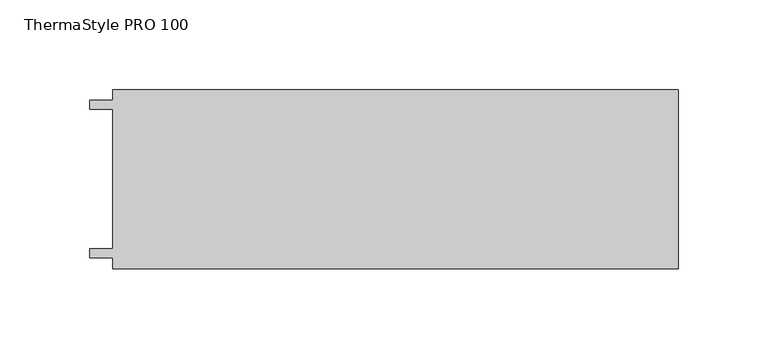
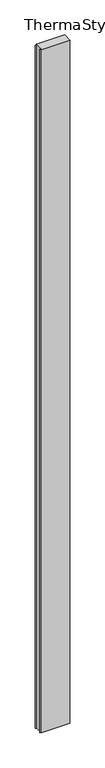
"""IFC4 building model written with IfcOpenShell, lengths in millimetres: plate geometry, Europanels_ThermaStyle PRO_Vt : ThermaStyle PRO 100."""

from ifc_helpers import new_model, si_unit, origin, origin_with_axes, place, context, project, spatial, polyline, outline, extrude, source, transform, mapped, element, save


def thermastyle_pro_100_3951d848(model_context):
    return source(origin(), model_context, "Body", "SweptSolid", [
        extrude(outline(polyline([(-164.0, -50.0), (-164.0, -44.0), (-176.9631544, -44.0), (-176.9631544, -38.8855682), (-164.0, -38.8855682), (-164.0, 38.8855682), (-176.9631544, 38.8855682), (-176.9631544, 44.0), (-164.0, 44.0), (-164.0, 50.0), (152.0447029, 50.0), (152.0447029, -50.0), (-164.0, -50.0)])), origin_with_axes(), (0.0, 0.0, 1.0), 8000.0),
    ])


if __name__ == "__main__":
    model = new_model("IFC4")
    model_context = context("Model", 3, world=origin())
    ifc_project = project(units=[si_unit("LENGTHUNIT", "METRE", prefix="MILLI")], contexts=[model_context])
    site = spatial("IfcSite", under=ifc_project)
    building = spatial("IfcBuilding", under=site)
    placement = place(None, origin())
    thermastyle_pro_100_shape = thermastyle_pro_100_3951d848(model_context)
    element("IfcPlate", 1, ObjectType="Europanels_ThermaStyle PRO_Vt : ThermaStyle PRO 100", at=placement, inside=building, context=model_context, shape_type="MappedRepresentation", body=[
        mapped(thermastyle_pro_100_shape, transform((0.0, 0.0, 0.0), x_axis=(1.0, 0.0, 0.0), y_axis=(0.0, 1.0, 0.0), z_axis=(0.0, 0.0, 1.0))),
    ])
    save(model, "model.ifc")
